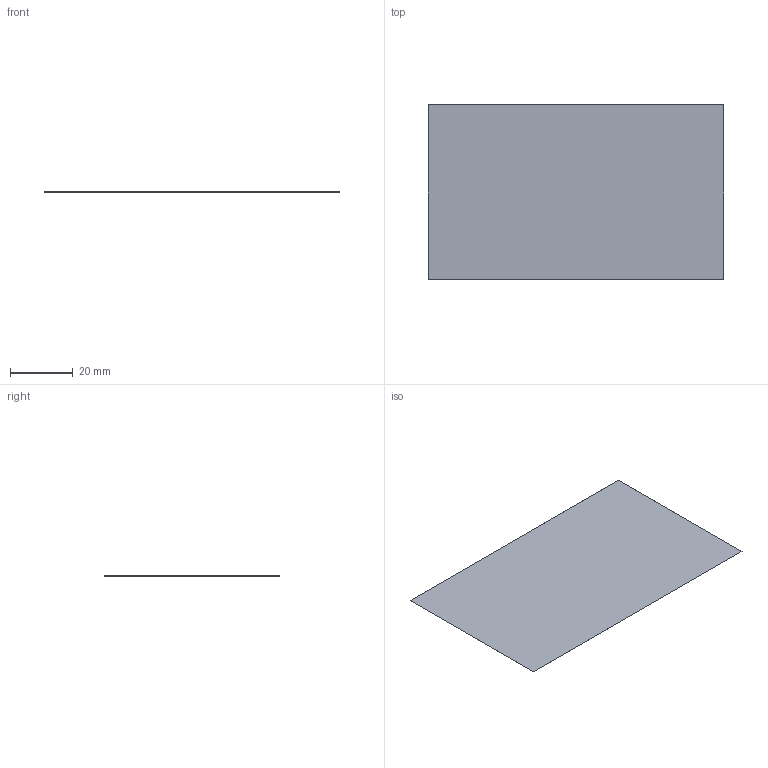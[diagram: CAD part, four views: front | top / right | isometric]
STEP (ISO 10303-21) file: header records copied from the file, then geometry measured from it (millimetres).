
FILE_DESCRIPTION(/* description */ ('STEP AP242 Edition 2','CAx-IF Rec.Pracs.---Representation and Presentation of Product Manufacturing Information (PMI)---4.0---2014-10-13','CAx-IF Rec.Pracs.---3D Tessellated Geometry---0.4---2014-09-14','2;1','CAx-IF Rec.Pracs.---User Defined Attributes---1.5---2016-08-15'),/* implementation_level */ '2;1');
FILE_NAME(/* name */ 'Assembly 1 - Part 3',/* time_stamp */ '2026-07-23T10:03:22Z',/* author */ (''),/* organization */ (''),/* preprocessor_version */ 'ST-DEVELOPER v20',/* originating_system */ 'ONSHAPE BY PTC INC, 1.218',/* authorisation */ ' ');
FILE_SCHEMA (('AP242_MANAGED_MODEL_BASED_3D_ENGINEERING_MIM_LF { 1 0 10303 442 3 1 4 }'));
Length unit declared in the file: metre
Products named in the file (1): Part 3
Bounding box: 94.1 x 55.65 x 0.01 mm (x, y, z)
Volume: 52.4 mm3; surface area: 10476.3 mm2
Topology: 1 solids, 1 shells, 6 faces, 12 edges, 8 vertices
Faces by surface type: plane 6
Entity records: 178 total; most frequent: CARTESIAN_POINT 27, DIRECTION 26, ORIENTED_EDGE 24, EDGE_CURVE 12, LINE 12, VECTOR 12, VERTEX_POINT 8, AXIS2_PLACEMENT_3D 7
